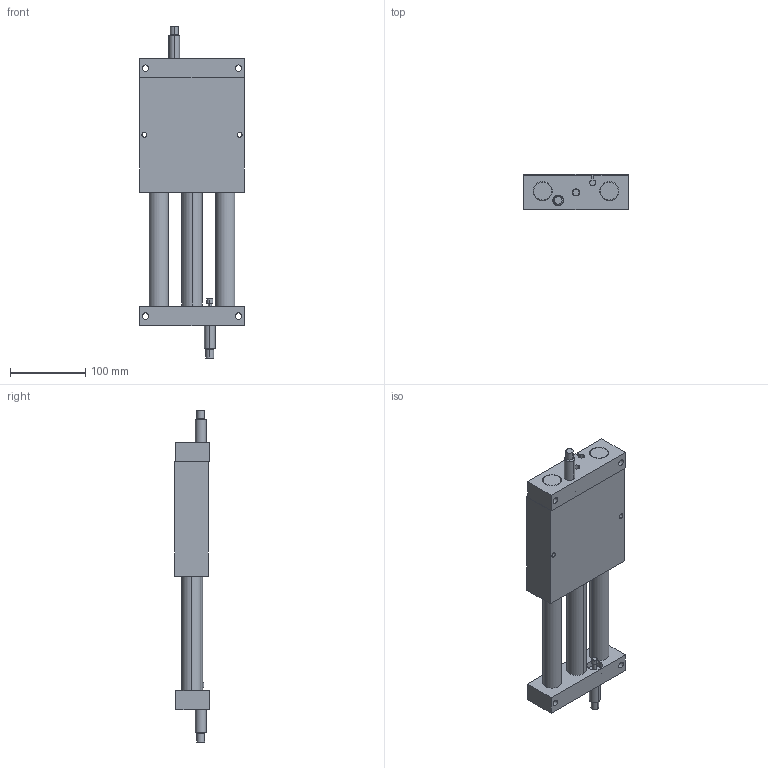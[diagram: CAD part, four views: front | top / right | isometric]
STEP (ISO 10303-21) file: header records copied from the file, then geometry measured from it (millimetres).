
FILE_DESCRIPTION (( 'STEP AP203' ), '1' );
FILE_NAME ('AGSL-6 with SHOCKS in MM.STEP', '2014-11-07T17:03:51', ( 'setup' ), ( '' ), 'SwSTEP 2.0', 'SolidWorks 2013', '' );
FILE_SCHEMA (( 'CONFIG_CONTROL_DESIGN' ));
Length unit declared in the file: millimetre
Products named in the file (6): AGSL-6 END SUPPORT; AGSL-6 PISTON ROD; AGSL-6 GUIDE ROD; AGSL-6 SHOCK ; AGSL-6 with SHOCKS in MM; AGSL-6 BODY
Assembly tree (8 placements, depth 2):
  AGSL-6 with SHOCKS in MM
    AGSL-6 BODY
    AGSL-6 END SUPPORT  x2
    AGSL-6 PISTON ROD
    AGSL-6 GUIDE ROD  x2
    AGSL-6 SHOCK   x2
Bounding box: 139.7 x 46.05 x 442.19 mm (x, y, z)
Volume: 1372895.8 mm3; surface area: 264395 mm2
Topology: 8 solids, 8 shells, 198 faces, 460 edges, 298 vertices
Faces by surface type: cylinder 114, plane 60, cone 24
Entity records: 4458 total; most frequent: CARTESIAN_POINT 813, DIRECTION 678, ORIENTED_EDGE 552, AXIS2_PLACEMENT_3D 280, EDGE_CURVE 276, VERTEX_POINT 181, EDGE_LOOP 167, CIRCLE 148
